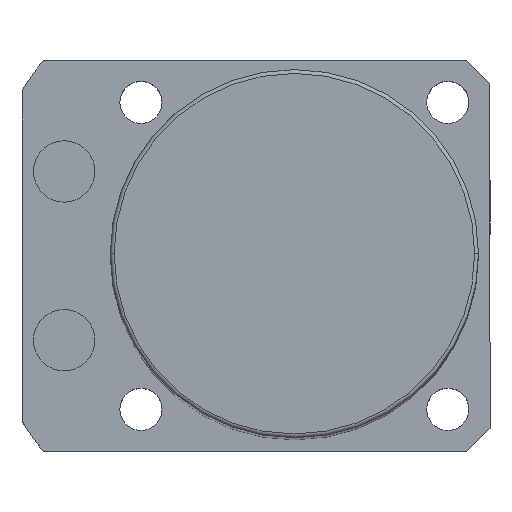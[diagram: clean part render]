
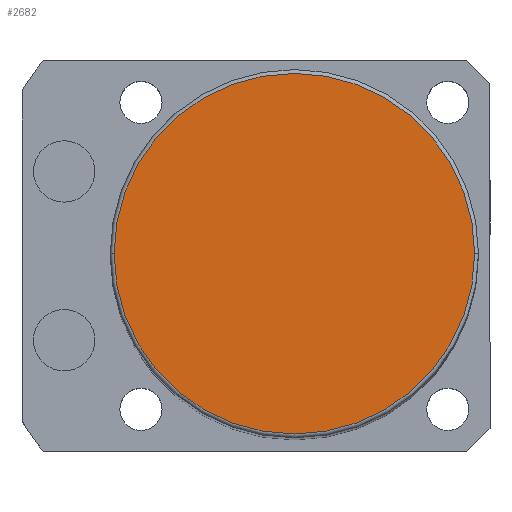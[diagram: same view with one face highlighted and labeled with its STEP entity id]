
A CAD part, top view. The second image highlights one B-rep face of the part: STEP entity #2682.
In plain terms, the highlighted planar face has unit normal (0, 0, 1).
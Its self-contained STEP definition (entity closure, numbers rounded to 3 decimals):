
#47 = CIRCLE ( 'NONE', #5230, 23.5 ) ;
#121 = CARTESIAN_POINT ( 'NONE',  ( -23.5, 0., 171. ) ) ;
#163 = EDGE_CURVE ( 'NONE', #6329, #1419, #47, .T. ) ;
#216 = DIRECTION ( 'NONE',  ( 1., 0., 0. ) ) ;
#1017 = AXIS2_PLACEMENT_3D ( 'NONE', #1828, #5395, #2333 ) ;
#1300 = DIRECTION ( 'NONE',  ( 0., 0., 1. ) ) ;
#1301 = CARTESIAN_POINT ( 'NONE',  ( 23.5, 0., 171. ) ) ;
#1324 = PLANE ( 'NONE',  #1017 ) ;
#1419 = VERTEX_POINT ( 'NONE', #1301 ) ;
#1828 = CARTESIAN_POINT ( 'NONE',  ( 0., 0., 171. ) ) ;
#2032 = ORIENTED_EDGE ( 'NONE', *, *, #163, .T. ) ;
#2333 = DIRECTION ( 'NONE',  ( 1., 0., 0. ) ) ;
#2422 = ORIENTED_EDGE ( 'NONE', *, *, #5468, .T. ) ;
#2682 = ADVANCED_FACE ( 'NONE', ( #5808 ), #1324, .T. ) ;
#3090 = CIRCLE ( 'NONE', #4044, 23.5 ) ;
#3322 = EDGE_LOOP ( 'NONE', ( #2422, #2032 ) ) ;
#4044 = AXIS2_PLACEMENT_3D ( 'NONE', #4310, #1300, #6364 ) ;
#4310 = CARTESIAN_POINT ( 'NONE',  ( 0., 0., 171. ) ) ;
#5230 = AXIS2_PLACEMENT_3D ( 'NONE', #5723, #5289, #216 ) ;
#5289 = DIRECTION ( 'NONE',  ( 0., 0., 1. ) ) ;
#5395 = DIRECTION ( 'NONE',  ( 0., 0., 1. ) ) ;
#5468 = EDGE_CURVE ( 'NONE', #1419, #6329, #3090, .T. ) ;
#5723 = CARTESIAN_POINT ( 'NONE',  ( 0., 0., 171. ) ) ;
#5808 = FACE_OUTER_BOUND ( 'NONE', #3322, .T. ) ;
#6329 = VERTEX_POINT ( 'NONE', #121 ) ;
#6364 = DIRECTION ( 'NONE',  ( 1., 0., 0. ) ) ;
